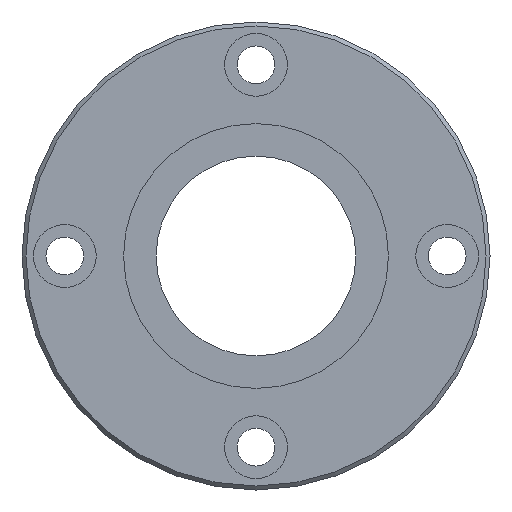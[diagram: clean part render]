
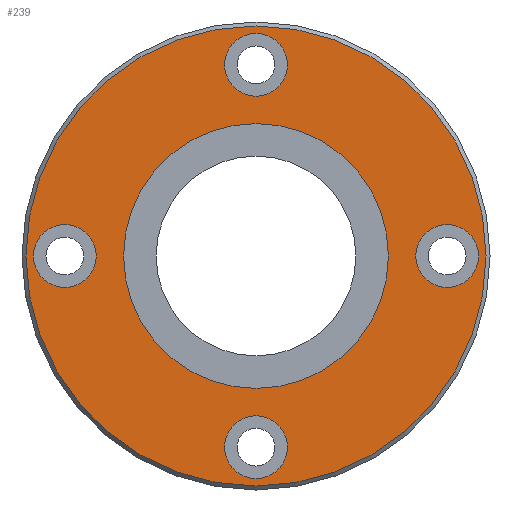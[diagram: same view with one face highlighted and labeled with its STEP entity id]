
A CAD part, left-side view. The second image highlights one B-rep face of the part: STEP entity #239.
In plain terms, the highlighted planar face has unit normal (-1, 0, 0).
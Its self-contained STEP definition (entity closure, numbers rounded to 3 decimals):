
#164=CARTESIAN_POINT('',(0.0,0.,40.3));
#165=VERTEX_POINT('',#164);
#166=CARTESIAN_POINT('',(0.0,0.0,0.0));
#167=DIRECTION('',(1.0,0.0,0.0));
#168=DIRECTION('',(0.0,0.0,-1.0));
#169=AXIS2_PLACEMENT_3D('',#166,#167,#168);
#170=CIRCLE('',#169,40.3);
#171=EDGE_CURVE('',#165,#165,#170,.T.);
#176=CARTESIAN_POINT('',(0.0,0.0,24.6));
#177=DIRECTION('',(-1.0,0.0,0.0));
#178=DIRECTION('',(0.0,0.0,1.0));
#179=AXIS2_PLACEMENT_3D('',#176,#177,#178);
#180=PLANE('',#179);
#181=ORIENTED_EDGE('',*,*,#171,.F.);
#182=EDGE_LOOP('',(#181));
#183=FACE_OUTER_BOUND('',#182,.T.);
#184=CARTESIAN_POINT('',(0.0,0.0,23.2));
#185=VERTEX_POINT('',#184);
#186=CARTESIAN_POINT('',(0.0,0.0,0.0));
#187=DIRECTION('',(-1.0,0.0,0.0));
#188=DIRECTION('',(0.0,0.0,1.0));
#189=AXIS2_PLACEMENT_3D('',#186,#187,#188);
#190=CIRCLE('',#189,23.2);
#191=EDGE_CURVE('',#185,#185,#190,.T.);
#192=ORIENTED_EDGE('',*,*,#191,.F.);
#193=EDGE_LOOP('',(#192));
#194=FACE_BOUND('',#193,.T.);
#195=CARTESIAN_POINT('',(0.0,39.0,0.));
#196=VERTEX_POINT('',#195);
#197=CARTESIAN_POINT('',(0.0,33.5,0.));
#198=DIRECTION('',(1.0,0.0,0.0));
#199=DIRECTION('',(0.0,1.0,0.0));
#200=AXIS2_PLACEMENT_3D('',#197,#198,#199);
#201=CIRCLE('',#200,5.5);
#202=EDGE_CURVE('',#196,#196,#201,.T.);
#203=ORIENTED_EDGE('',*,*,#202,.T.);
#204=EDGE_LOOP('',(#203));
#205=FACE_BOUND('',#204,.T.);
#206=CARTESIAN_POINT('',(0.0,-28.,0.));
#207=VERTEX_POINT('',#206);
#208=CARTESIAN_POINT('',(0.0,-33.5,0.));
#209=DIRECTION('',(1.0,0.0,0.0));
#210=DIRECTION('',(0.0,1.0,0.0));
#211=AXIS2_PLACEMENT_3D('',#208,#209,#210);
#212=CIRCLE('',#211,5.5);
#213=EDGE_CURVE('',#207,#207,#212,.T.);
#214=ORIENTED_EDGE('',*,*,#213,.T.);
#215=EDGE_LOOP('',(#214));
#216=FACE_BOUND('',#215,.T.);
#217=CARTESIAN_POINT('',(0.0,5.5,33.5));
#218=VERTEX_POINT('',#217);
#219=CARTESIAN_POINT('',(0.0,0.,33.5));
#220=DIRECTION('',(1.0,0.0,0.0));
#221=DIRECTION('',(0.0,1.0,0.0));
#222=AXIS2_PLACEMENT_3D('',#219,#220,#221);
#223=CIRCLE('',#222,5.5);
#224=EDGE_CURVE('',#218,#218,#223,.T.);
#225=ORIENTED_EDGE('',*,*,#224,.T.);
#226=EDGE_LOOP('',(#225));
#227=FACE_BOUND('',#226,.T.);
#228=CARTESIAN_POINT('',(0.0,5.5,-33.5));
#229=VERTEX_POINT('',#228);
#230=CARTESIAN_POINT('',(0.0,0.,-33.5));
#231=DIRECTION('',(1.0,0.0,0.0));
#232=DIRECTION('',(0.0,1.0,0.0));
#233=AXIS2_PLACEMENT_3D('',#230,#231,#232);
#234=CIRCLE('',#233,5.5);
#235=EDGE_CURVE('',#229,#229,#234,.T.);
#236=ORIENTED_EDGE('',*,*,#235,.T.);
#237=EDGE_LOOP('',(#236));
#238=FACE_BOUND('',#237,.T.);
#239=ADVANCED_FACE('',(#183,#194,#205,#216,#227,#238),#180,.T.);
